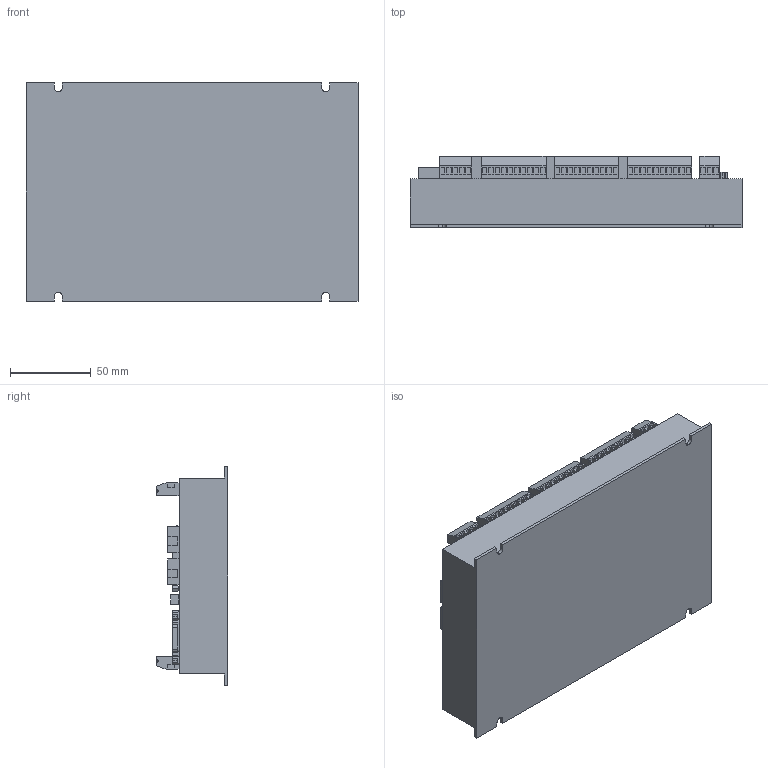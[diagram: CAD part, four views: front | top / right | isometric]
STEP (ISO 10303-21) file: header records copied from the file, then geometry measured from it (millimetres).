
FILE_DESCRIPTION((''),'2;1');
FILE_NAME('ZMC406-432_ASM','2024-06-14T16:09:36',('admin'),(''),'CREO PARAMETRIC BY PTC INC, 2021063','CREO PARAMETRIC BY PTC INC, 2021063','');
FILE_SCHEMA(('CONFIG_CONTROL_DESIGN','SHAPE_APPEARANCE_LAYERS_GROUPS'));
Products named in the file (68): _-5000; _2_7_0001; _2_46_0001; _2_40_0001; _2_25_0001; _2_32_0001; _2_9_0001; _2_44_0001; _2_10_0001; _2_13_0001; _2_23_0001; _2_12_0001; _2_33_0001; _2_17_0001; _2_39_0001; _2_8_0001; _2_36_0001; _2_19_0001; _2_27_0001; _2_2_-351940001; _2_20_0001; _2_34_0001; 600; _2_11_0001; _2_24_0001; _2_31_0001; _2_1_-430340001; _2_37_0001; _2_42_0001; _2_30_0001; _2_48_0001; _2_5_0001; _2_15_0001; _2_22_0001; _2_47_0001; _2_21_0001; _2_38_0001; _2_6_0001; _2_45_0001; _2_18_0001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
Assembly tree (81 placements, depth 4):
  ZMC406-432_ASM
    ZMC406-432_1_ASM
      _-5000  x3
      ZMC464-432-406-00_ASM
        _2_7_0001
        _2_46_0001
        _2_40_0001
        _2_25_0001
        _2_32_0001
        _2_9_0001
        _2_44_0001
        _2_10_0001
        _2_13_0001
        _2_23_0001
        _2_12_0001
        _2_33_0001
        _2_17_0001
        _2_39_0001
        _2_8_0001
        _2_36_0001
        _2_19_0001
        _2_27_0001
        _2_2_-351940001
        _2_20_0001
        _2_34_0001
        600
        _2_11_0001
        _2_24_0001
        _2_31_0001
        _2_1_-430340001
        _2_37_0001
        _2_42_0001
        _2_30_0001
        _2_48_0001
        _2_5_0001
        _2_15_0001
        _2_22_0001
        _2_47_0001
        _2_21_0001
        _2_38_0001
        _2_6_0001
        _2_45_0001
        _2_18_0001
        _2_29_0001
        _2_4_0001
        _2_16_0001
        _2_3_-645240001
        _2_14_0001
        _2_43_0001
        _2_41_0001
        _2_28_0001
        _2_26_0001
        _2_35_0001
        _2_49_0001
      U0
      _000  x2
      26-3-0001_ASM  x6
        _1_2_0001
        _1_3_0001
        _1_1_0001
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Bounding box: 205 x 44 x 135 mm (x, y, z)
Volume: 778050.7 mm3; surface area: 100113.9 mm2
Topology: 86 solids, 86 shells, 2946 faces, 7434 edges, 4944 vertices
Faces by surface type: plane 2022, cylinder 528, extrusion 388, sphere 8
Entity records: 86598 total; most frequent: CARTESIAN_POINT 23640, ORIENTED_EDGE 9856, DIRECTION 8262, PRESENTATION_STYLE_ASSIGNMENT 5126, STYLED_ITEM 4990, CURVE_STYLE 4928, EDGE_CURVE 4928, VECTOR 4192
